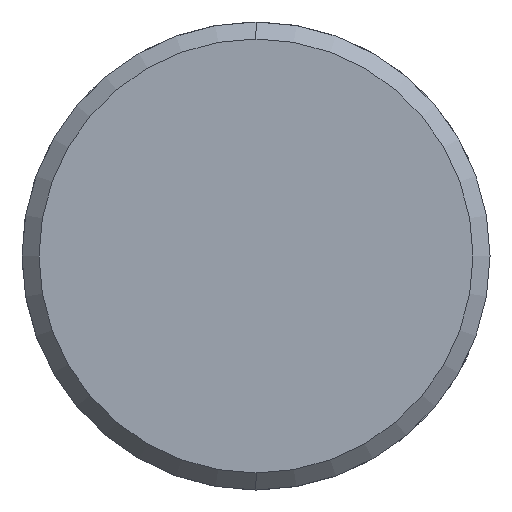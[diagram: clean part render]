
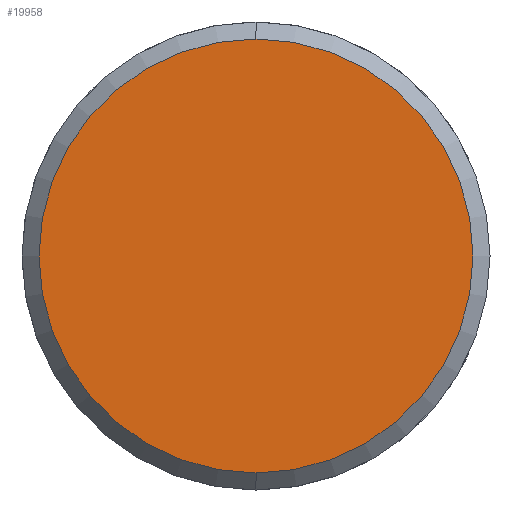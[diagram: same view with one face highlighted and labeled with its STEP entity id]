
A CAD part, left-side view. The second image highlights one B-rep face of the part: STEP entity #19958.
In plain terms, the highlighted planar face has unit normal (-1, 0, 0).
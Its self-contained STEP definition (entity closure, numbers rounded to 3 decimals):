
#588 = EDGE_CURVE ( 'NONE', #22324, #22354, #3402, .T. ) ;
#599 = EDGE_CURVE ( 'NONE', #22354, #22324, #3414, .T. ) ;
#3402 = CIRCLE ( 'NONE', #6334, 25.5 ) ;
#3414 = CIRCLE ( 'NONE', #6338, 25.5 ) ;
#6334 = AXIS2_PLACEMENT_3D ( 'NONE', #7921, #7922, #7923 ) ;
#6338 = AXIS2_PLACEMENT_3D ( 'NONE', #7942, #7950, #7951 ) ;
#7921 = CARTESIAN_POINT ( 'NONE',  ( -9.3, 0., 0. ) ) ;
#7922 = DIRECTION ( 'NONE',  ( -1., 0., 0. ) ) ;
#7923 = DIRECTION ( 'NONE',  ( 0., 0., -1. ) ) ;
#7942 = CARTESIAN_POINT ( 'NONE',  ( -9.3, 0., 0. ) ) ;
#7950 = DIRECTION ( 'NONE',  ( -1., 0., 0. ) ) ;
#7951 = DIRECTION ( 'NONE',  ( 0., 0., -1. ) ) ;
#16331 = AXIS2_PLACEMENT_3D ( 'NONE', #19368, #19375, #19376 ) ;
#19368 = CARTESIAN_POINT ( 'NONE',  ( -9.3, 0., 0. ) ) ;
#19372 = PLANE ( 'NONE',  #16331 ) ;
#19375 = DIRECTION ( 'NONE',  ( 1., 0., 0. ) ) ;
#19376 = DIRECTION ( 'NONE',  ( 0., 0., -1. ) ) ;
#19958 = ADVANCED_FACE ( 'NONE', ( #25815 ), #19372, .F. ) ;
#22324 = VERTEX_POINT ( 'NONE', #33618 ) ;
#22354 = VERTEX_POINT ( 'NONE', #33648 ) ;
#23057 = ORIENTED_EDGE ( 'NONE', *, *, #599, .T. ) ;
#23058 = ORIENTED_EDGE ( 'NONE', *, *, #588, .T. ) ;
#23318 = EDGE_LOOP ( 'NONE', ( #23057, #23058 ) ) ;
#25815 = FACE_OUTER_BOUND ( 'NONE', #23318, .T. ) ;
#33618 = CARTESIAN_POINT ( 'NONE',  ( -9.3, 0., 25.5 ) ) ;
#33648 = CARTESIAN_POINT ( 'NONE',  ( -9.3, 0., -25.5 ) ) ;
